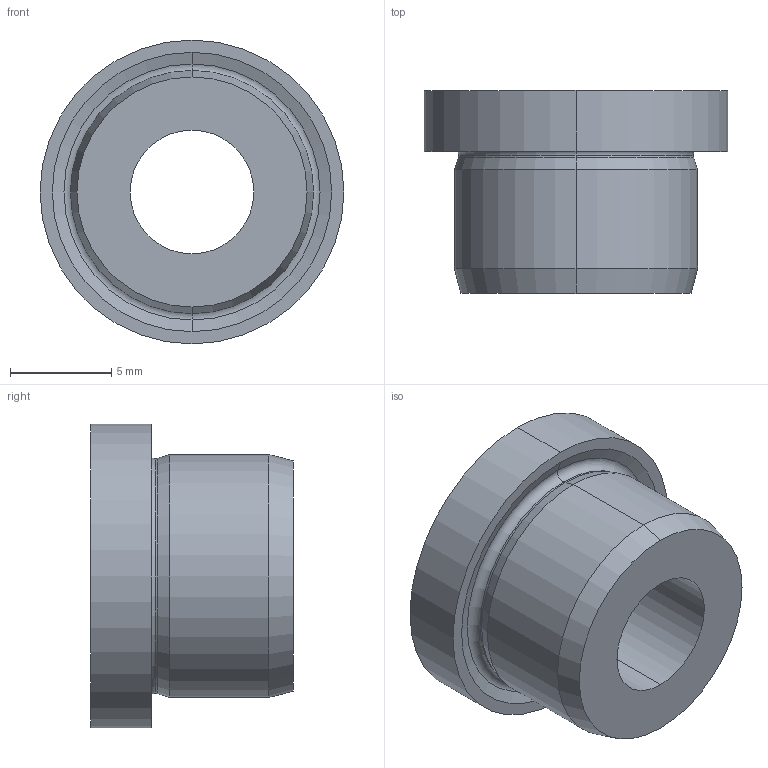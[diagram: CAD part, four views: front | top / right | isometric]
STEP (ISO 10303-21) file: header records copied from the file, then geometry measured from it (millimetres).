
FILE_DESCRIPTION (( 'STEP AP214' ), '1' );
FILE_NAME ('172-B6,1-10-A.step', '2024-10-17T05:08:01', ( '' ), ( '' ), 'SwSTEP 2.0', 'SolidWorks 2022', '' );
FILE_SCHEMA (( 'AUTOMOTIVE_DESIGN' ));
Length unit declared in the file: millimetre
Products named in the file (1): 172-B6,1-10-A
Bounding box: 15 x 10 x 15 mm (x, y, z)
Volume: 1012.9 mm3; surface area: 888.1 mm2
Topology: 1 solids, 1 shells, 21 faces, 42 edges, 24 vertices
Faces by surface type: torus 6, cone 6, cylinder 6, plane 3
Entity records: 632 total; most frequent: DIRECTION 116, CARTESIAN_POINT 88, ORIENTED_EDGE 84, AXIS2_PLACEMENT_3D 52, EDGE_CURVE 42, CIRCLE 30, VERTEX_POINT 24, EDGE_LOOP 24
